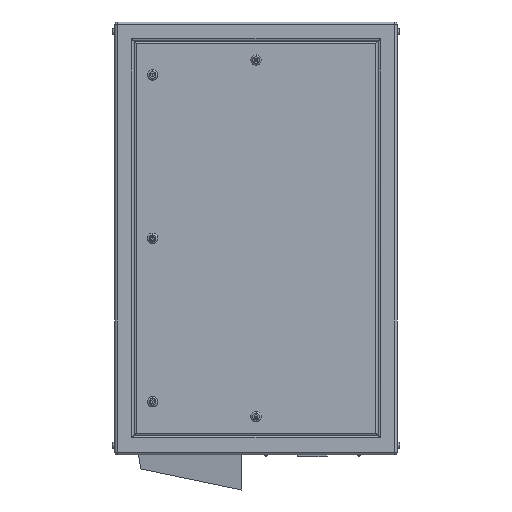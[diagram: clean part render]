
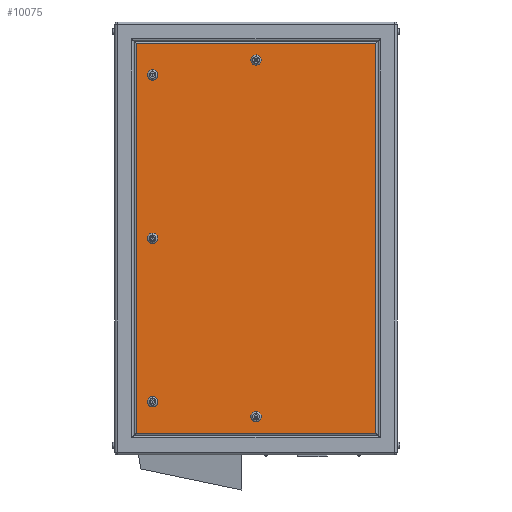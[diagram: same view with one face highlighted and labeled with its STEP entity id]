
A CAD part, left-side view. The second image highlights one B-rep face of the part: STEP entity #10075.
In plain terms, the highlighted planar face has unit normal (-1, 0, 0).
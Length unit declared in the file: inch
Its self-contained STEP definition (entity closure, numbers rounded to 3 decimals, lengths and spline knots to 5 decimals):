
#208 = CARTESIAN_POINT ( 'NONE',  ( -10., 11., 17.375 ) ) ;
#268 = VERTEX_POINT ( 'NONE', #1396 ) ;
#317 = DIRECTION ( 'NONE',  ( 0., 0., -1. ) ) ;
#835 = EDGE_LOOP ( 'NONE', ( #17453, #8841 ) ) ;
#1076 = VERTEX_POINT ( 'NONE', #22373 ) ;
#1122 = EDGE_CURVE ( 'NONE', #14883, #268, #5365, .T. ) ;
#1396 = CARTESIAN_POINT ( 'NONE',  ( -10., 11., -17.925 ) ) ;
#1539 = VECTOR ( 'NONE', #8676, 39.37008 ) ;
#1556 = DIRECTION ( 'NONE',  ( 1., 0., 0. ) ) ;
#1677 = CARTESIAN_POINT ( 'NONE',  ( -10., 0., 18.4 ) ) ;
#1685 = EDGE_CURVE ( 'NONE', #18133, #24274, #22214, .T. ) ;
#2116 = DIRECTION ( 'NONE',  ( 0., 0., -1. ) ) ;
#2152 = CARTESIAN_POINT ( 'NONE',  ( -10., 11., -17.375 ) ) ;
#2196 = CARTESIAN_POINT ( 'NONE',  ( -10., 12.74, 20.74 ) ) ;
#2420 = CARTESIAN_POINT ( 'NONE',  ( -10., 15., 20.74 ) ) ;
#2473 = CARTESIAN_POINT ( 'NONE',  ( -10., 15., -20.74 ) ) ;
#2629 = DIRECTION ( 'NONE',  ( 1., 0., 0. ) ) ;
#3097 = AXIS2_PLACEMENT_3D ( 'NONE', #14865, #19061, #22673 ) ;
#3458 = CARTESIAN_POINT ( 'NONE',  ( -10., 11., 0. ) ) ;
#3650 = AXIS2_PLACEMENT_3D ( 'NONE', #18293, #22504, #9292 ) ;
#3779 = VECTOR ( 'NONE', #10105, 39.37008 ) ;
#3855 = AXIS2_PLACEMENT_3D ( 'NONE', #208, #6077, #317 ) ;
#4064 = VERTEX_POINT ( 'NONE', #2196 ) ;
#4455 = CARTESIAN_POINT ( 'NONE',  ( -10., 11., 17.375 ) ) ;
#4632 = FACE_BOUND ( 'NONE', #18418, .T. ) ;
#4769 = FACE_BOUND ( 'NONE', #9369, .T. ) ;
#4788 = CIRCLE ( 'NONE', #19940, 0.55 ) ;
#5021 = CARTESIAN_POINT ( 'NONE',  ( -10., 15., -23. ) ) ;
#5365 = CIRCLE ( 'NONE', #18562, 0.55 ) ;
#5835 = AXIS2_PLACEMENT_3D ( 'NONE', #4455, #9761, #2116 ) ;
#6039 = DIRECTION ( 'NONE',  ( 1., 0., 0. ) ) ;
#6077 = DIRECTION ( 'NONE',  ( 1., 0., 0. ) ) ;
#6276 = CARTESIAN_POINT ( 'NONE',  ( -10., 0., 18.95 ) ) ;
#6399 = FACE_BOUND ( 'NONE', #835, .T. ) ;
#6450 = CARTESIAN_POINT ( 'NONE',  ( -10., -12.74, -20.74 ) ) ;
#7693 = CARTESIAN_POINT ( 'NONE',  ( -10., -12.74, -23. ) ) ;
#7753 = VERTEX_POINT ( 'NONE', #16269 ) ;
#7813 = LINE ( 'NONE', #7693, #23490 ) ;
#8429 = CIRCLE ( 'NONE', #11596, 0.55 ) ;
#8528 = AXIS2_PLACEMENT_3D ( 'NONE', #5021, #18026, #8550 ) ;
#8550 = DIRECTION ( 'NONE',  ( 0., 0., -1. ) ) ;
#8676 = DIRECTION ( 'NONE',  ( 0., 1., 0. ) ) ;
#8841 = ORIENTED_EDGE ( 'NONE', *, *, #20158, .T. ) ;
#8953 = EDGE_CURVE ( 'NONE', #9912, #20845, #12846, .T. ) ;
#9292 = DIRECTION ( 'NONE',  ( 0., 0., 1. ) ) ;
#9369 = EDGE_LOOP ( 'NONE', ( #19833, #10559 ) ) ;
#9576 = CARTESIAN_POINT ( 'NONE',  ( -10., 11., 17.925 ) ) ;
#9761 = DIRECTION ( 'NONE',  ( 1., 0., 0. ) ) ;
#9809 = DIRECTION ( 'NONE',  ( 1., 0., 0. ) ) ;
#9811 = DIRECTION ( 'NONE',  ( 0., 0., -1. ) ) ;
#9912 = VERTEX_POINT ( 'NONE', #12815 ) ;
#10075 = ADVANCED_FACE ( 'NONE', ( #10639, #6399, #20258, #4769, #4632, #10774 ), #12142, .F. ) ;
#10100 = DIRECTION ( 'NONE',  ( 0., 0., -1. ) ) ;
#10105 = DIRECTION ( 'NONE',  ( 0., -1., 0. ) ) ;
#10235 = ORIENTED_EDGE ( 'NONE', *, *, #18935, .T. ) ;
#10446 = CIRCLE ( 'NONE', #13250, 0.55 ) ;
#10480 = EDGE_CURVE ( 'NONE', #19355, #24365, #21819, .T. ) ;
#10559 = ORIENTED_EDGE ( 'NONE', *, *, #23459, .T. ) ;
#10639 = FACE_BOUND ( 'NONE', #20383, .T. ) ;
#10774 = FACE_OUTER_BOUND ( 'NONE', #23193, .T. ) ;
#11596 = AXIS2_PLACEMENT_3D ( 'NONE', #17189, #18607, #24646 ) ;
#11735 = LINE ( 'NONE', #13862, #13268 ) ;
#11916 = ORIENTED_EDGE ( 'NONE', *, *, #17620, .T. ) ;
#12142 = PLANE ( 'NONE',  #8528 ) ;
#12523 = CARTESIAN_POINT ( 'NONE',  ( -10., 12.74, -20.74 ) ) ;
#12593 = DIRECTION ( 'NONE',  ( 1., 0., 0. ) ) ;
#12779 = VERTEX_POINT ( 'NONE', #13472 ) ;
#12815 = CARTESIAN_POINT ( 'NONE',  ( -10., 0., -18.4 ) ) ;
#12820 = EDGE_CURVE ( 'NONE', #18997, #12779, #21769, .T. ) ;
#12846 = CIRCLE ( 'NONE', #3650, 0.55 ) ;
#12991 = EDGE_CURVE ( 'NONE', #12779, #18997, #23375, .T. ) ;
#13250 = AXIS2_PLACEMENT_3D ( 'NONE', #18913, #1556, #16943 ) ;
#13268 = VECTOR ( 'NONE', #10100, 39.37008 ) ;
#13472 = CARTESIAN_POINT ( 'NONE',  ( -10., 11., 16.825 ) ) ;
#13862 = CARTESIAN_POINT ( 'NONE',  ( -10., 12.74, -23. ) ) ;
#13949 = ORIENTED_EDGE ( 'NONE', *, *, #12820, .T. ) ;
#14256 = EDGE_CURVE ( 'NONE', #7753, #4064, #16087, .T. ) ;
#14628 = ORIENTED_EDGE ( 'NONE', *, *, #15078, .T. ) ;
#14865 = CARTESIAN_POINT ( 'NONE',  ( -10., 0., 18.95 ) ) ;
#14883 = VERTEX_POINT ( 'NONE', #23838 ) ;
#15078 = EDGE_CURVE ( 'NONE', #268, #14883, #4788, .T. ) ;
#15884 = ORIENTED_EDGE ( 'NONE', *, *, #16551, .T. ) ;
#15982 = EDGE_CURVE ( 'NONE', #1076, #20596, #8429, .T. ) ;
#16087 = LINE ( 'NONE', #2420, #1539 ) ;
#16269 = CARTESIAN_POINT ( 'NONE',  ( -10., -12.74, 20.74 ) ) ;
#16301 = ORIENTED_EDGE ( 'NONE', *, *, #1122, .T. ) ;
#16551 = EDGE_CURVE ( 'NONE', #20845, #9912, #10446, .T. ) ;
#16943 = DIRECTION ( 'NONE',  ( 0., 0., 1. ) ) ;
#17189 = CARTESIAN_POINT ( 'NONE',  ( -10., 11., 0. ) ) ;
#17453 = ORIENTED_EDGE ( 'NONE', *, *, #1685, .T. ) ;
#17540 = AXIS2_PLACEMENT_3D ( 'NONE', #6276, #9809, #19640 ) ;
#17620 = EDGE_CURVE ( 'NONE', #4064, #19355, #11735, .T. ) ;
#17771 = DIRECTION ( 'NONE',  ( 0., 0., -1. ) ) ;
#18026 = DIRECTION ( 'NONE',  ( 1., 0., 0. ) ) ;
#18133 = VERTEX_POINT ( 'NONE', #1677 ) ;
#18213 = ORIENTED_EDGE ( 'NONE', *, *, #12991, .T. ) ;
#18293 = CARTESIAN_POINT ( 'NONE',  ( -10., 0., -18.95 ) ) ;
#18318 = CIRCLE ( 'NONE', #23876, 0.55 ) ;
#18354 = CIRCLE ( 'NONE', #17540, 0.55 ) ;
#18418 = EDGE_LOOP ( 'NONE', ( #18213, #13949 ) ) ;
#18562 = AXIS2_PLACEMENT_3D ( 'NONE', #2152, #2629, #17771 ) ;
#18576 = ORIENTED_EDGE ( 'NONE', *, *, #8953, .T. ) ;
#18581 = ORIENTED_EDGE ( 'NONE', *, *, #10480, .T. ) ;
#18607 = DIRECTION ( 'NONE',  ( 1., 0., 0. ) ) ;
#18913 = CARTESIAN_POINT ( 'NONE',  ( -10., 0., -18.95 ) ) ;
#18935 = EDGE_CURVE ( 'NONE', #24365, #7753, #7813, .T. ) ;
#18958 = CARTESIAN_POINT ( 'NONE',  ( -10., 0., 19.5 ) ) ;
#18997 = VERTEX_POINT ( 'NONE', #9576 ) ;
#19046 = DIRECTION ( 'NONE',  ( 0., 0., 1. ) ) ;
#19061 = DIRECTION ( 'NONE',  ( 1., 0., 0. ) ) ;
#19355 = VERTEX_POINT ( 'NONE', #12523 ) ;
#19640 = DIRECTION ( 'NONE',  ( 0., 0., -1. ) ) ;
#19833 = ORIENTED_EDGE ( 'NONE', *, *, #15982, .T. ) ;
#19940 = AXIS2_PLACEMENT_3D ( 'NONE', #23379, #6039, #9811 ) ;
#20158 = EDGE_CURVE ( 'NONE', #24274, #18133, #18354, .T. ) ;
#20258 = FACE_BOUND ( 'NONE', #23217, .T. ) ;
#20383 = EDGE_LOOP ( 'NONE', ( #15884, #18576 ) ) ;
#20456 = DIRECTION ( 'NONE',  ( 0., 0., -1. ) ) ;
#20596 = VERTEX_POINT ( 'NONE', #23438 ) ;
#20845 = VERTEX_POINT ( 'NONE', #23153 ) ;
#21769 = CIRCLE ( 'NONE', #5835, 0.55 ) ;
#21819 = LINE ( 'NONE', #2473, #3779 ) ;
#22099 = ORIENTED_EDGE ( 'NONE', *, *, #14256, .T. ) ;
#22214 = CIRCLE ( 'NONE', #3097, 0.55 ) ;
#22373 = CARTESIAN_POINT ( 'NONE',  ( -10., 11., -0.55 ) ) ;
#22504 = DIRECTION ( 'NONE',  ( 1., 0., 0. ) ) ;
#22673 = DIRECTION ( 'NONE',  ( 0., 0., -1. ) ) ;
#23153 = CARTESIAN_POINT ( 'NONE',  ( -10., 0., -19.5 ) ) ;
#23193 = EDGE_LOOP ( 'NONE', ( #18581, #10235, #22099, #11916 ) ) ;
#23217 = EDGE_LOOP ( 'NONE', ( #14628, #16301 ) ) ;
#23375 = CIRCLE ( 'NONE', #3855, 0.55 ) ;
#23379 = CARTESIAN_POINT ( 'NONE',  ( -10., 11., -17.375 ) ) ;
#23438 = CARTESIAN_POINT ( 'NONE',  ( -10., 11., 0.55 ) ) ;
#23459 = EDGE_CURVE ( 'NONE', #20596, #1076, #18318, .T. ) ;
#23490 = VECTOR ( 'NONE', #19046, 39.37008 ) ;
#23838 = CARTESIAN_POINT ( 'NONE',  ( -10., 11., -16.825 ) ) ;
#23876 = AXIS2_PLACEMENT_3D ( 'NONE', #3458, #12593, #20456 ) ;
#24274 = VERTEX_POINT ( 'NONE', #18958 ) ;
#24365 = VERTEX_POINT ( 'NONE', #6450 ) ;
#24646 = DIRECTION ( 'NONE',  ( 0., 0., -1. ) ) ;
